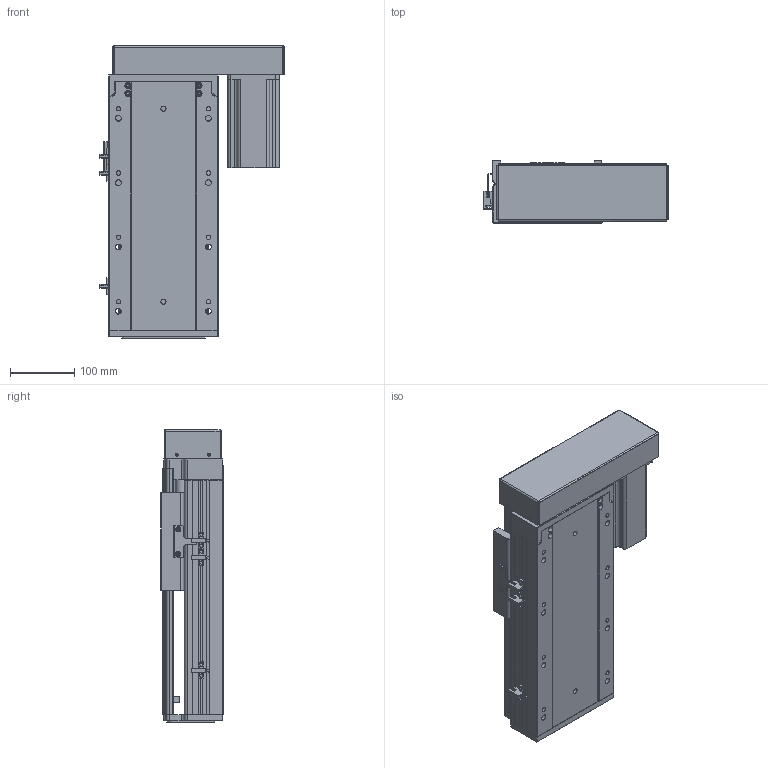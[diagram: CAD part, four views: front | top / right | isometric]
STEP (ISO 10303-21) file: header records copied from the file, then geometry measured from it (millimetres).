
FILE_DESCRIPTION (( 'STEP AP203' ), '1' );
FILE_NAME ('RY170-L2510-300-RK.SLDASM_150.step', '2021-03-12T09:18:47', ( '盈信电脑' ), ( '东莞市道滘镇水果街19号' ), 'SwSTEP 2.0', 'SolidWorks 2012', '' );
FILE_SCHEMA (( 'CONFIG_CONTROL_DESIGN' ));
Length unit declared in the file: millimetre
Products named in the file (14): RY170外置感应片(200共用）; RY170-L2510-300-RK.SLDASM_150; RY170-酘衵殏750W萇儂傷; 怢湛750W萇儂ㄗ80遺ㄘ; 覜茼ん672; RY170酘衵殏萇儂欶750W; RY170-左右折电机安装板750W; RY170转折电机端支撑座(7004); 滅袉蝶18-10; 滅袉蝶18-20; RY170綴裔啣; 改造-RY170铝滑块25丝杆螺母; RY170-300倰第裔啣-RK_150; RY170-300倰第菁釱-RK_150
Assembly tree (15 placements, depth 3):
  RY170-L2510-300-RK.SLDASM_150
    RY170-300倰第菁釱-RK_150
    改造-RY170铝滑块25丝杆螺母
    RY170-300倰第裔啣-RK_150
    RY170綴裔啣
    滅袉蝶18-20
    滅袉蝶18-10
    RY170转折电机端支撑座(7004)
    RY170-酘衵殏750W萇儂傷
      RY170-左右折电机安装板750W
      RY170酘衵殏萇儂欶750W
      怢湛750W萇儂ㄗ80遺ㄘ
    覜茼ん672  x3
    RY170外置感应片(200共用）
Bounding box: 286.2 x 97 x 455 mm (x, y, z)
Volume: 3667650.1 mm3; surface area: 997883.5 mm2
Topology: 14 solids, 14 shells, 1987 faces, 5634 edges, 3646 vertices
Faces by surface type: plane 1080, cylinder 762, cone 126, bspline 19
Entity records: 63051 total; most frequent: CARTESIAN_POINT 14472, ORIENTED_EDGE 10108, DIRECTION 9436, EDGE_CURVE 5054, VERTEX_POINT 3326, VECTOR 3260, LINE 3260, AXIS2_PLACEMENT_3D 3088
